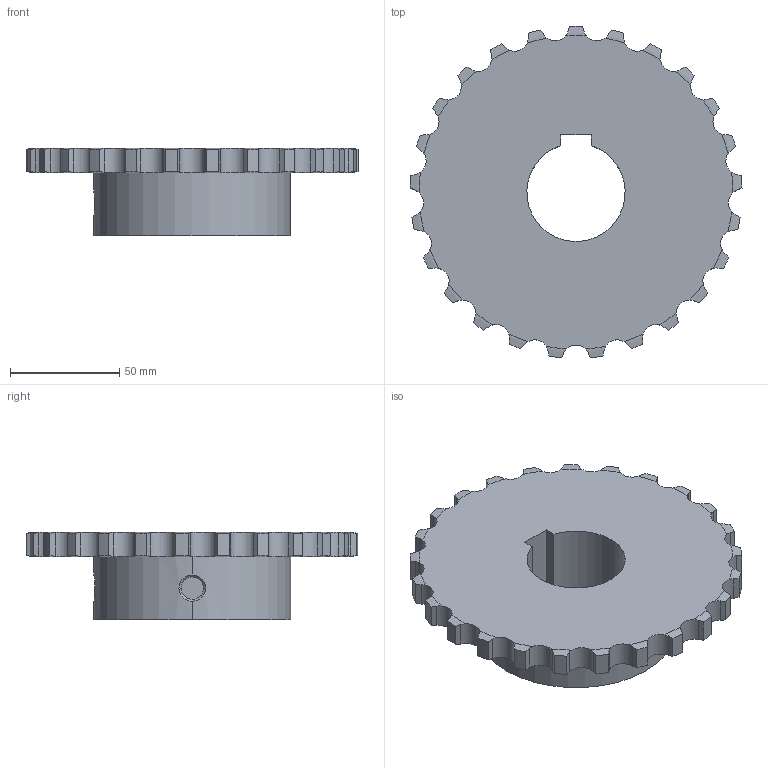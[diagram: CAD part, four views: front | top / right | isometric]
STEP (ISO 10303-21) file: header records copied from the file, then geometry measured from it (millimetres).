
FILE_DESCRIPTION((''),'2;1');
FILE_NAME('510-401-4525_PRT','2021-02-13T',('Brieden'),('Brieden'),'PRO/ENGINEER BY PARAMETRIC TECHNOLOGY CORPORATION, 2010160','PRO/ENGINEER BY PARAMETRIC TECHNOLOGY CORPORATION, 2010160','');
FILE_SCHEMA(('AUTOMOTIVE_DESIGN { 1 0 10303 214 1 1 1 1 }'));
Length unit declared in the file: millimetre
Products named in the file (1): 510-401-4525_PRT
Bounding box: 151.95 x 151.7 x 40 mm (x, y, z)
Volume: 300635.7 mm3; surface area: 51775.3 mm2
Topology: 1 solids, 1 shells, 171 faces, 495 edges, 328 vertices
Faces by surface type: cylinder 107, torus 50, plane 8, bspline 6
Entity records: 8532 total; most frequent: CARTESIAN_POINT 2751, ORIENTED_EDGE 990, DIRECTION 773, PRESENTATION_STYLE_ASSIGNMENT 496, STYLED_ITEM 496, CURVE_STYLE 495, EDGE_CURVE 495, VERTEX_POINT 328
